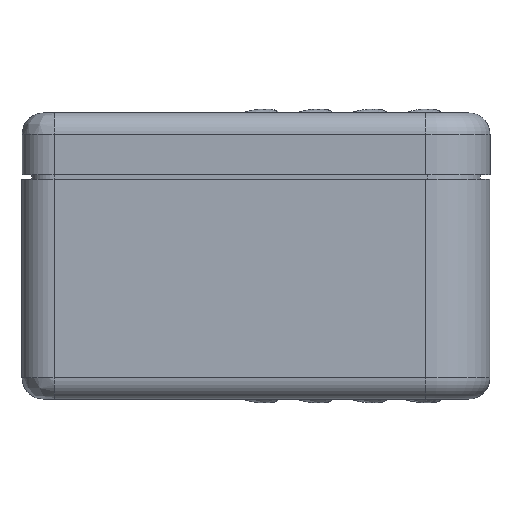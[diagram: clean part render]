
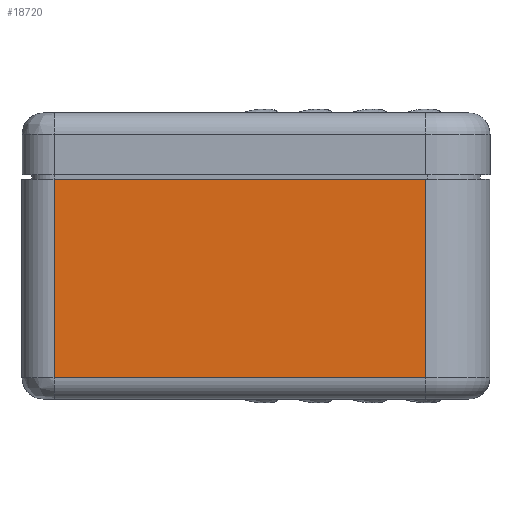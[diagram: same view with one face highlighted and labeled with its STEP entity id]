
A CAD part, front view. The second image highlights one B-rep face of the part: STEP entity #18720.
In plain terms, the highlighted planar face has unit normal (0, -1, 0).
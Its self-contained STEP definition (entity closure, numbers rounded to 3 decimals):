
#3450=DIRECTION('',(1.,0.,0.));
#3451=VECTOR('',#3450,17.41);
#3452=CARTESIAN_POINT('',(10.628,14.522,9.225));
#3453=LINE('',#3452,#3451);
#3458=DIRECTION('',(1.,0.,0.));
#3459=VECTOR('',#3458,17.41);
#3460=CARTESIAN_POINT('',(10.628,14.522,18.525));
#3461=LINE('',#3460,#3459);
#3466=DIRECTION('',(0.,0.,-1.));
#3467=VECTOR('',#3466,9.3);
#3468=CARTESIAN_POINT('',(10.628,14.522,18.525));
#3469=LINE('',#3468,#3467);
#10207=DIRECTION('',(0.,0.,1.));
#10208=VECTOR('',#10207,9.3);
#10209=CARTESIAN_POINT('',(28.038,14.522,9.225));
#10210=LINE('',#10209,#10208);
#11077=CARTESIAN_POINT('',(28.038,14.522,9.225));
#11078=VERTEX_POINT('',#11077);
#11081=CARTESIAN_POINT('',(10.628,14.522,9.225));
#11082=VERTEX_POINT('',#11081);
#11995=CARTESIAN_POINT('',(10.628,14.522,18.525));
#11996=VERTEX_POINT('',#11995);
#11997=CARTESIAN_POINT('',(28.038,14.522,18.525));
#11998=VERTEX_POINT('',#11997);
#18706=CARTESIAN_POINT('',(15.684,14.522,18.101));
#18707=DIRECTION('',(0.,1.,0.));
#18708=DIRECTION('',(-1.,0.,0.));
#18709=AXIS2_PLACEMENT_3D('',#18706,#18707,#18708);
#18710=PLANE('',#18709);
#18711=ORIENTED_EDGE('',*,*,#18697,.F.);
#18713=ORIENTED_EDGE('',*,*,#18712,.F.);
#18715=ORIENTED_EDGE('',*,*,#18714,.T.);
#18717=ORIENTED_EDGE('',*,*,#18716,.F.);
#18718=EDGE_LOOP('',(#18711,#18713,#18715,#18717));
#18719=FACE_OUTER_BOUND('',#18718,.F.);
#18720=ADVANCED_FACE('',(#18719),#18710,.F.);
#18697=EDGE_CURVE('',#11082,#11078,#3453,.T.);
#18712=EDGE_CURVE('',#11996,#11082,#3469,.T.);
#18714=EDGE_CURVE('',#11996,#11998,#3461,.T.);
#18716=EDGE_CURVE('',#11078,#11998,#10210,.T.);
